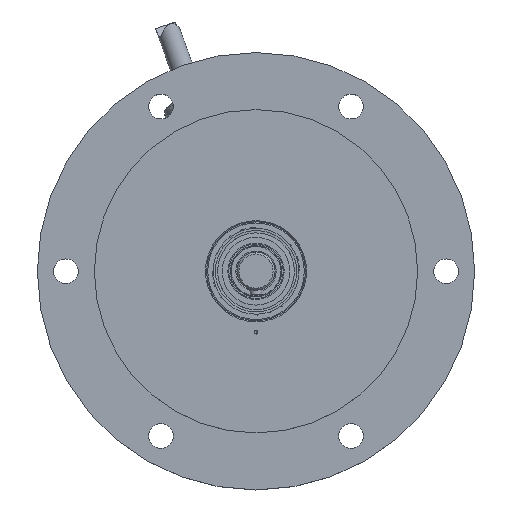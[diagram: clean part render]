
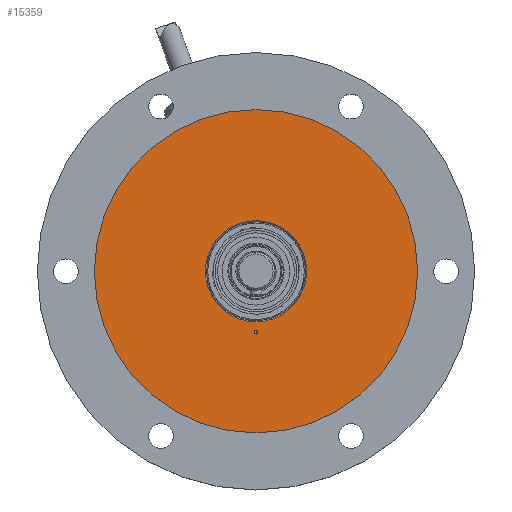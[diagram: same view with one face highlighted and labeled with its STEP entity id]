
A CAD part, top view. The second image highlights one B-rep face of the part: STEP entity #15359.
In plain terms, the highlighted planar face has unit normal (0, 0, 1).
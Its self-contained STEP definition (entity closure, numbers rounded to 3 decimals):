
#15317=CARTESIAN_POINT('',(-13.3,0.,33.3));
#15318=VERTEX_POINT('',#15317);
#15319=CARTESIAN_POINT('',(0.,0.,33.3));
#15320=DIRECTION('',(0.0,0.0,1.0));
#15321=DIRECTION('',(1.0,0.0,0.0));
#15322=AXIS2_PLACEMENT_3D('',#15319,#15320,#15321);
#15323=CIRCLE('',#15322,13.3);
#15324=EDGE_CURVE('',#15318,#15318,#15323,.T.);
#15329=CARTESIAN_POINT('',(0.,0.,33.3));
#15330=DIRECTION('',(0.0,0.0,1.0));
#15331=DIRECTION('',(-1.0,0.0,0.0));
#15332=AXIS2_PLACEMENT_3D('',#15329,#15330,#15331);
#15333=PLANE('',#15332);
#15334=CARTESIAN_POINT('',(-42.5,0.,33.3));
#15335=VERTEX_POINT('',#15334);
#15336=CARTESIAN_POINT('',(0.,0.,33.3));
#15337=DIRECTION('',(0.0,0.0,1.0));
#15338=DIRECTION('',(1.0,0.0,0.0));
#15339=AXIS2_PLACEMENT_3D('',#15336,#15337,#15338);
#15340=CIRCLE('',#15339,42.5);
#15341=EDGE_CURVE('',#15335,#15335,#15340,.T.);
#15342=ORIENTED_EDGE('',*,*,#15341,.T.);
#15343=EDGE_LOOP('',(#15342));
#15344=FACE_OUTER_BOUND('',#15343,.T.);
#15345=CARTESIAN_POINT('',(-0.5,-16.,33.3));
#15346=VERTEX_POINT('',#15345);
#15347=CARTESIAN_POINT('',(0.,-16.,33.3));
#15348=DIRECTION('',(0.0,0.0,-1.0));
#15349=DIRECTION('',(-1.0,0.0,0.0));
#15350=AXIS2_PLACEMENT_3D('',#15347,#15348,#15349);
#15351=CIRCLE('',#15350,0.5);
#15352=EDGE_CURVE('',#15346,#15346,#15351,.T.);
#15353=ORIENTED_EDGE('',*,*,#15352,.T.);
#15354=EDGE_LOOP('',(#15353));
#15355=FACE_BOUND('',#15354,.T.);
#15356=ORIENTED_EDGE('',*,*,#15324,.F.);
#15357=EDGE_LOOP('',(#15356));
#15358=FACE_BOUND('',#15357,.T.);
#15359=ADVANCED_FACE('',(#15344,#15355,#15358),#15333,.T.);
